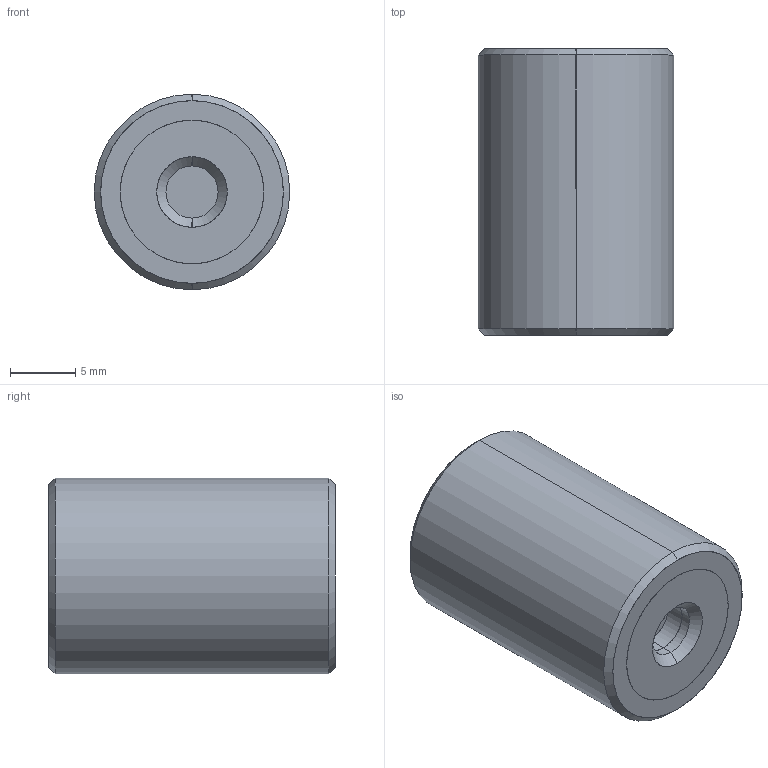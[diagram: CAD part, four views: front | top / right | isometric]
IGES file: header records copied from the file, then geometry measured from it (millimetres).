
Start section: SolidWorks IGES file using analytic representation for surfaces
Global section: file name: E:\WIXROYD 20180701\61080_v2\61080_v2_20180409_IGES\61080.W0153.igs; native system: SolidWorks 2017; preprocessor: SolidWorks 2017; author: liam_; date: 180716.214201; units: millimetre
Bounding box: 15 x 22 x 15 mm (x, y, z)
Surface area: 1965.5 mm2 (no closed solid volume)
Topology: 0 solids, 0 shells, 36 faces, 680 edges, 680 vertices
Faces by surface type: revolution 26, bspline 10
